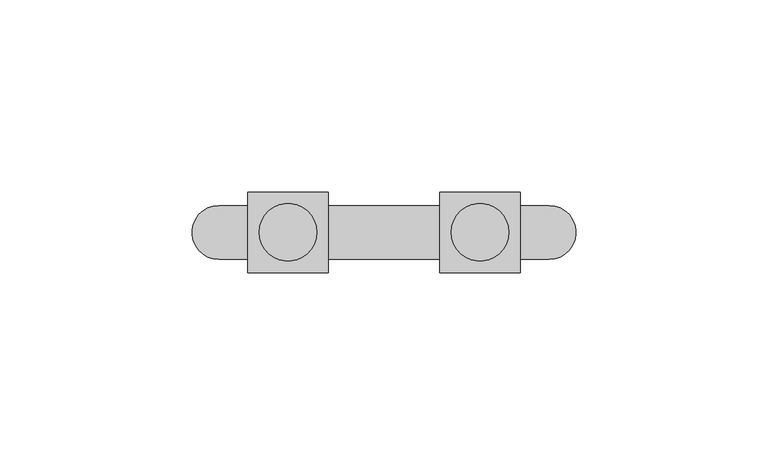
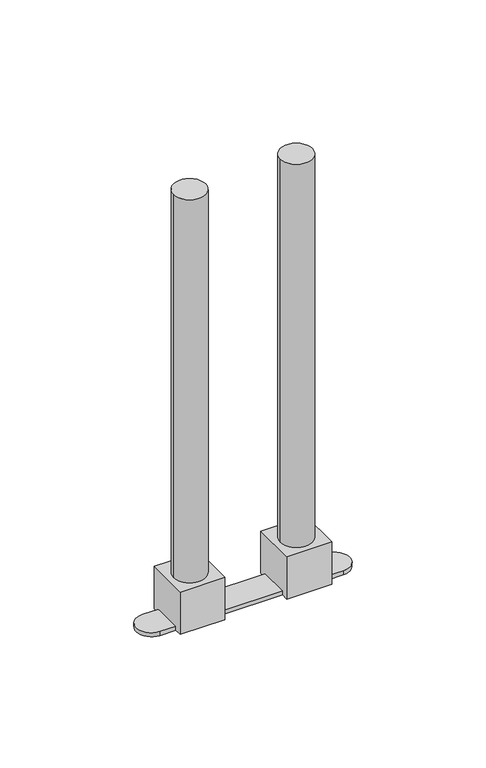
"""IFC4 building model written with IfcOpenShell, lengths in millimetres: pipe fitting geometry, KAN-therm Push kolano mosiężne zespolone ze wspornikiem L=200 : KAN-therm Push kolano mosiężne zespolone ze wspornikiem L=200."""

from ifc_helpers import new_model, si_unit, point, frame, frame_2d, origin, origin_with_axes, origin_2d, place, context, project, spatial, circle_curve, trimmed, segment, composite_curve, outline, extrude, source, transform, mapped, element, save
from ifc_brep_helpers import plane_surface, cylinder_surface, advanced_brep


def pipe_fitting_abb25506(model_context):
    return source(origin(), model_context, "Body", "SolidModel", [
        extrude(outline(composite_curve([segment(trimmed(circle_curve(origin_2d(), 7.5), [point((-7.5, 0.0))], [point((7.5, 0.0))], False, "CARTESIAN"), True, "CONTINUOUS"), segment(trimmed(circle_curve(origin_2d(), 7.5), [point((7.5, 0.0))], [point((-7.5, 0.0))], False, "CARTESIAN"), True, "CONTINUOUS")], self_intersect=False)), origin_with_axes(), (0.0, 0.0, 1.0), 200.0),
        extrude(outline(composite_curve([segment(trimmed(circle_curve(frame_2d((50.0, 0.0)), 7.5), [point((42.5, 0.0))], [point((57.5, 0.0))], False, "CARTESIAN"), True, "CONTINUOUS"), segment(trimmed(circle_curve(frame_2d((50.0, 0.0)), 7.5), [point((57.5, 0.0))], [point((42.5, 0.0))], False, "CARTESIAN"), True, "CONTINUOUS")], self_intersect=False)), origin_with_axes(), (0.0, 0.0, 1.0), 200.0),
        advanced_brep(
        [(60.5, -10.5, 10.5), (60.5, 10.5, 10.5), (39.5, 10.5, 10.5), (39.5, -10.5, 10.5), (-18.0, -7.0, -10.5), (-18.0, 7.0, -10.5), (-10.5, 7.0, -10.5), (-10.5, 10.5, -10.5), (10.5, 10.5, -10.5), (10.5, 7.0, -10.5), (39.5, 7.0, -10.5), (39.5, 10.5, -10.5), (60.5, 10.5, -10.5), (60.5, 7.0, -10.5), (68.0, 7.0, -10.5), (68.0, -7.0, -10.5), (60.5, -7.0, -10.5), (60.5, -10.5, -10.5), (39.5, -10.5, -10.5), (39.5, -7.0, -10.5), (10.5, -7.0, -10.5), (10.5, -10.5, -10.5), (-10.5, -10.5, -10.5), (-10.5, -7.0, -10.5), (60.5, -7.0, -8.5), (60.5, 7.0, -8.5), (39.5, 7.0, -8.5), (39.5, -7.0, -8.5), (10.5, -10.5, 10.5), (10.5, 10.5, 10.5), (-10.5, 10.5, 10.5), (-10.5, -10.5, 10.5), (10.5, -7.0, -8.5), (10.5, 7.0, -8.5), (-10.5, 7.0, -8.5), (-10.5, -7.0, -8.5), (-18.0, 7.0, -8.5), (-18.0, -7.0, -8.5), (68.0, -7.0, -8.5), (68.0, 7.0, -8.5)],
        [
            (0, 1),
            (1, 2),
            (2, 3),
            (3, 0),
            (4, 5, circle_curve(frame((-18.0, 0.0, -10.5), z_axis=(0.0, 0.0, -1.0), x_axis=(1.0, 0.0, 0.0)), 7.0)),
            (5, 6),
            (6, 7),
            (7, 8),
            (8, 9),
            (9, 10),
            (10, 11),
            (11, 12),
            (12, 13),
            (13, 14),
            (14, 15, circle_curve(frame((68.0, 0.0, -10.5), z_axis=(0.0, 0.0, -1.0), x_axis=(1.0, 0.0, 0.0)), 7.0)),
            (15, 16),
            (16, 17),
            (17, 18),
            (18, 19),
            (19, 20),
            (20, 21),
            (21, 22),
            (22, 23),
            (23, 4),
            (0, 17),
            (16, 24),
            (24, 25),
            (25, 13),
            (12, 1),
            (11, 2),
            (10, 26),
            (26, 27),
            (27, 19),
            (18, 3),
            (28, 29),
            (29, 30),
            (30, 31),
            (31, 28),
            (28, 21),
            (20, 32),
            (32, 33),
            (33, 9),
            (8, 29),
            (7, 30),
            (6, 34),
            (34, 35),
            (35, 23),
            (22, 31),
            (36, 37, circle_curve(frame((-18.0, 0.0, -8.5), z_axis=(0.0, 0.0, 1.0), x_axis=(1.0, 0.0, 0.0)), 7.0)),
            (37, 35),
            (34, 36),
            (38, 39, circle_curve(frame((68.0, 0.0, -8.5), z_axis=(0.0, 0.0, 1.0), x_axis=(1.0, 0.0, 0.0)), 7.0)),
            (39, 25),
            (24, 38),
            (26, 33),
            (32, 27),
            (39, 14),
            (5, 36),
            (4, 37),
            (15, 38),
        ],
        [
            plane_surface(frame((60.5, 10.5, 10.5), z_axis=(0.0, 0.0, 1.0), x_axis=(0.0, 1.0, 0.0))),
            plane_surface(frame((60.5, 10.5, -10.5), z_axis=(0.0, 0.0, -1.0), x_axis=(0.0, -1.0, 0.0))),
            plane_surface(frame((60.5, -10.5, 10.5), z_axis=(1.0, 0.0, 0.0), x_axis=(0.0, 0.0, -1.0))),
            plane_surface(frame((60.5, 10.5, 10.5), z_axis=(0.0, 1.0, 0.0), x_axis=(0.0, 0.0, -1.0))),
            plane_surface(frame((39.5, 10.5, 10.5), z_axis=(-1.0, 0.0, 0.0), x_axis=(0.0, 0.0, -1.0))),
            plane_surface(frame((39.5, -10.5, 10.5), z_axis=(0.0, -1.0, 0.0), x_axis=(0.0, 0.0, -1.0))),
            plane_surface(frame((10.5, 10.5, 10.5), z_axis=(0.0, 0.0, 1.0), x_axis=(0.0, 1.0, 0.0))),
            plane_surface(frame((10.5, -10.5, 10.5), z_axis=(1.0, 0.0, 0.0), x_axis=(0.0, 0.0, -1.0))),
            plane_surface(frame((10.5, 10.5, 10.5), z_axis=(0.0, 1.0, 0.0), x_axis=(0.0, 0.0, -1.0))),
            plane_surface(frame((-10.5, 10.5, 10.5), z_axis=(-1.0, 0.0, 0.0), x_axis=(0.0, 0.0, -1.0))),
            plane_surface(frame((-10.5, -10.5, 10.5), z_axis=(0.0, -1.0, 0.0), x_axis=(0.0, 0.0, -1.0))),
            plane_surface(frame((2000.0, 7.0, -8.5), z_axis=(0.0, 0.0, 1.0), x_axis=(-1.0, 0.0, 0.0))),
            plane_surface(frame((68.0, 7.0, -8.5), z_axis=(0.0, 1.0, 0.0), x_axis=(0.0, 0.0, -1.0))),
            cylinder_surface(frame((-18.0, 0.0, -10.5), z_axis=(0.0, 0.0, 1.0), x_axis=(1.0, 0.0, 0.0)), 7.0),
            plane_surface(frame((-18.0, -7.0, -8.5), z_axis=(0.0, -1.0, 0.0), x_axis=(0.0, 0.0, -1.0))),
            cylinder_surface(frame((68.0, 0.0, -10.5), z_axis=(0.0, 0.0, 1.0), x_axis=(1.0, 0.0, 0.0)), 7.0),
        ],
        [
            (0, [[1, 2, 3, 4]]),
            (1, [[5, 6, 7, 8, 9, 10, 11, 12, 13, 14, 15, 16, 17, 18, 19, 20, 21, 22, 23, 24]]),
            (2, [[-1, 25, -17, 26, 27, 28, -13, 29]]),
            (3, [[-2, -29, -12, 30]]),
            (4, [[-3, -30, -11, 31, 32, 33, -19, 34]]),
            (5, [[-4, -34, -18, -25]]),
            (6, [[35, 36, 37, 38]]),
            (7, [[-35, 39, -21, 40, 41, 42, -9, 43]]),
            (8, [[-36, -43, -8, 44]]),
            (9, [[-37, -44, -7, 45, 46, 47, -23, 48]]),
            (10, [[-38, -48, -22, -39]]),
            (11, [[49, 50, -46, 51]]),
            (11, [[52, 53, -27, 54]]),
            (11, [[55, -41, 56, -32]]),
            (12, [[-10, -42, -55, -31]]),
            (12, [[57, -14, -28, -53]]),
            (12, [[58, -51, -45, -6]]),
            (13, [[-49, -58, -5, 59]]),
            (14, [[-20, -33, -56, -40]]),
            (14, [[-59, -24, -47, -50]]),
            (14, [[60, -54, -26, -16]]),
            (15, [[-52, -60, -15, -57]]),
        ],
    ),
    ])


if __name__ == "__main__":
    model = new_model("IFC4")
    model_context = context("Model", 3, world=origin())
    ifc_project = project(units=[si_unit("LENGTHUNIT", "METRE", prefix="MILLI")], contexts=[model_context])
    site = spatial("IfcSite", under=ifc_project)
    building = spatial("IfcBuilding", under=site)
    placement = place(None, origin())
    pipe_fitting_shape = pipe_fitting_abb25506(model_context)
    element("IfcPipeFitting", 1, ObjectType="KAN-therm Push kolano mosiężne zespolone ze wspornikiem L=200 : KAN-therm Push kolano mosiężne zespolone ze wspornikiem L=200", at=placement, inside=building, context=model_context, shape_type="MappedRepresentation", body=[
        mapped(pipe_fitting_shape, transform((0.0, 0.0, 0.0), x_axis=(1.0, 0.0, 0.0), y_axis=(0.0, 1.0, 0.0), z_axis=(0.0, 0.0, 1.0))),
    ])
    save(model, "model.ifc")
